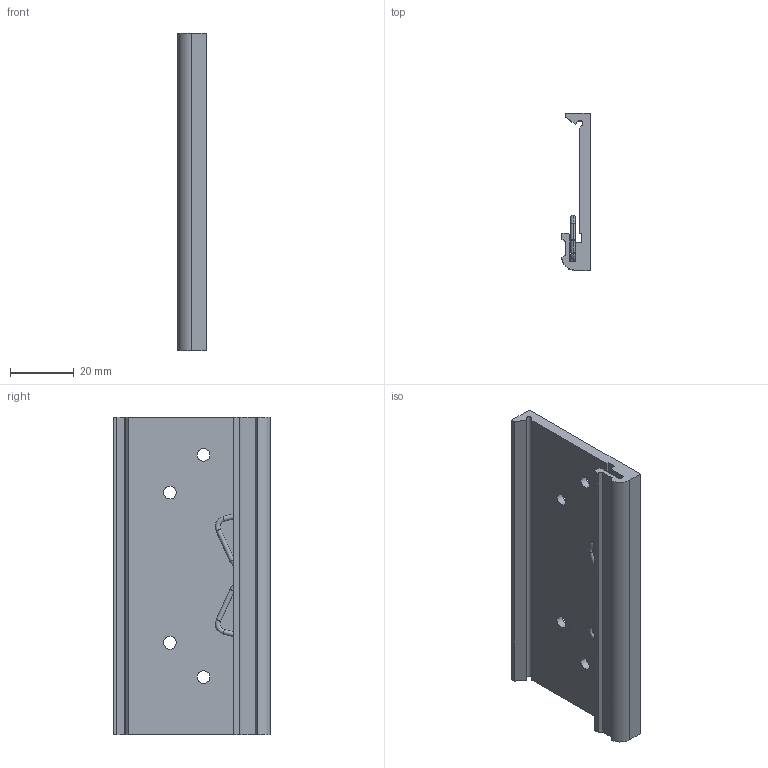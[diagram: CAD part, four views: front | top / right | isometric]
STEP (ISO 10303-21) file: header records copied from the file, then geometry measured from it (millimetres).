
FILE_DESCRIPTION((''),'2;1');
FILE_NAME('SC_DIN_RAILMT_CRIO_4S_SW0001','2013-03-21T',('jbuhisan'),(''),'PRO/ENGINEER BY PARAMETRIC TECHNOLOGY CORPORATION, 2011490','PRO/ENGINEER BY PARAMETRIC TECHNOLOGY CORPORATION, 2011490','');
FILE_SCHEMA(('CONFIG_CONTROL_DESIGN'));
Length unit declared in the file: inch
Products named in the file (1): SC_DIN_RAILMT_CRIO_4S_SW0001
Bounding box: 8.97 x 49.33 x 100 mm (x, y, z)
Volume: 21065 mm3; surface area: 15741.8 mm2
Topology: 2 solids, 2 shells, 80 faces, 184 edges, 116 vertices
Faces by surface type: cylinder 39, plane 31, torus 10
Entity records: 2330 total; most frequent: DIRECTION 432, CARTESIAN_POINT 380, ORIENTED_EDGE 368, EDGE_CURVE 184, AXIS2_PLACEMENT_3D 168, VERTEX_POINT 116, VECTOR 96, LINE 96
